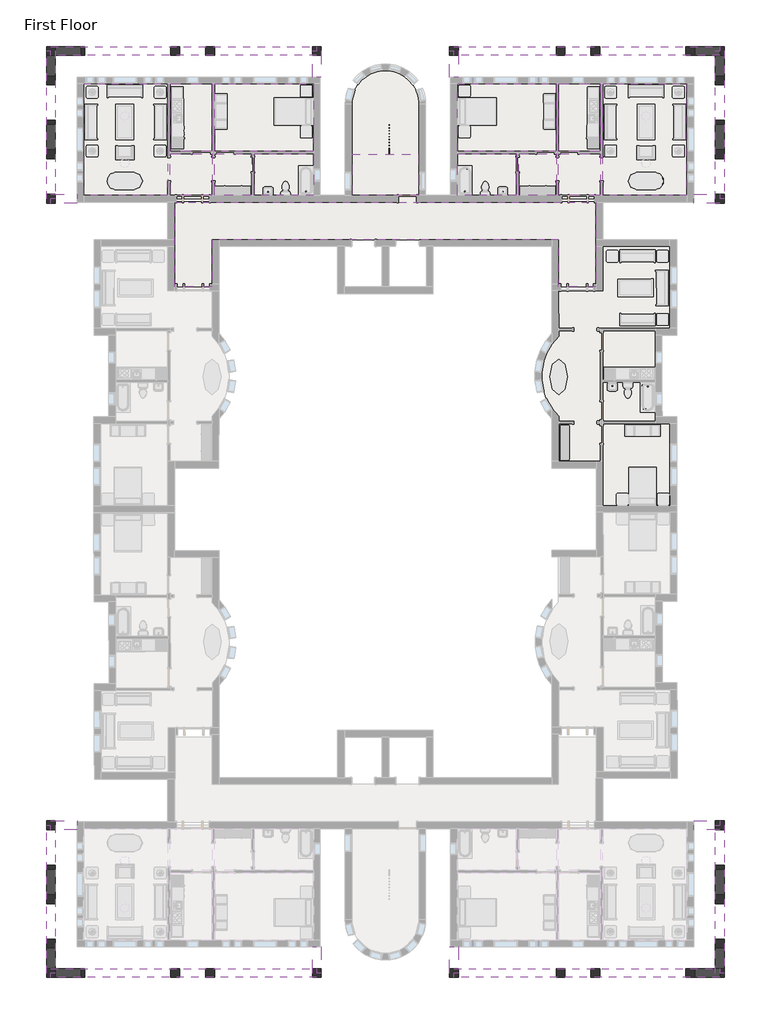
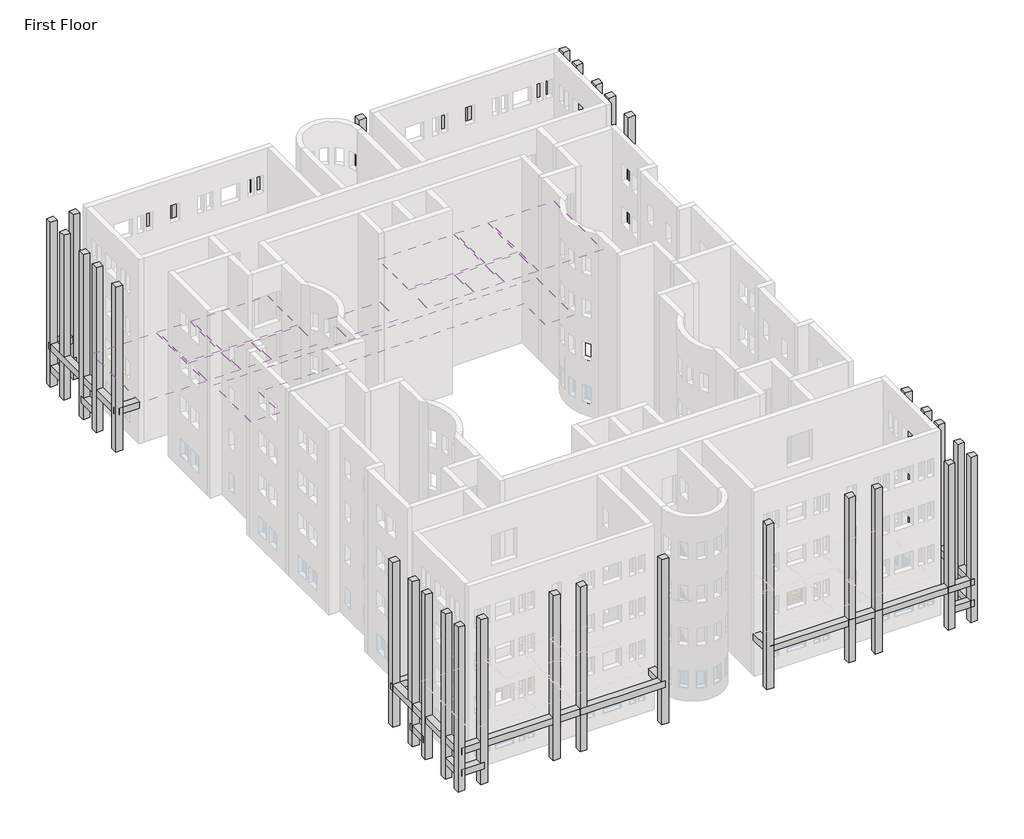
# One storey, part 17 of 21: 36 columns, 28 beams, 14 coverings, 4 slabs.
"""IFC4 building model written with IfcOpenShell, lengths in millimetres."""

from ifc_helpers import new_model, si_unit, point, frame, frame_2d, origin, place, context, project, spatial, polyline, circle_curve, trimmed, segment, composite_curve, outline, extrude, transform, mapped, element, save
from components import concrete_square_column_18_x_18_3c38657b, concrete_square_column_18_x_18_478389e8

model = new_model("IFC4")

# Units and contexts
model_context = context("Model", 3, world=origin())
ifc_project = project(units=[si_unit("LENGTHUNIT", "METRE", prefix="MILLI")], contexts=[model_context])

# Site, building, storey
site = spatial("IfcSite", under=ifc_project)
building = spatial("IfcBuilding", under=site)
storey = spatial("IfcBuildingStorey", under=building, Name="First Floor", Elevation=0.0)

# Beams
placement = place(None, origin())
element("IfcBeam", 1, ObjectType="Concrete-Rectangular Beam : 18 x 18", at=placement, inside=storey, context=model_context, shape_type="SweptSolid", body=[
    extrude(outline(polyline([(2322.5410437, -35349.9683133), (2322.5410437, -35807.1683133), (-11393.4589563, -35807.1683133), (-11393.4589563, -35349.9683133), (2322.5410437, -35349.9683133)])), frame((0.0, 0.0, 2590.8), z_axis=(0.0, 0.0, 1.0), x_axis=(1.0, 0.0, 0.0)), (0.0, 0.0, 1.0), 457.2),
])
element("IfcBeam", 2, ObjectType="Concrete-Rectangular Beam : 18 x 18", at=placement, inside=storey, context=model_context, shape_type="SweptSolid", body=[
    extrude(outline(polyline([(2093.9410437, -27958.5683133), (2551.1410437, -27958.5683133), (2551.1410437, -35578.5683133), (2093.9410437, -35578.5683133), (2093.9410437, -27958.5683133)])), frame((0.0, 0.0, 2590.8), z_axis=(0.0, 0.0, 1.0), x_axis=(1.0, 0.0, 0.0)), (0.0, 0.0, 1.0), 457.2),
])
element("IfcBeam", 3, ObjectType="Concrete-Rectangular Beam : 18 x 18", at=placement, inside=storey, context=model_context, shape_type="SweptSolid", body=[
    extrude(outline(polyline([(-11622.0589563, -34232.3683133), (-11164.8589563, -34232.3683133), (-11164.8589563, -35578.5683133), (-11622.0589563, -35578.5683133), (-11622.0589563, -34232.3683133)])), frame((0.0, 0.0, 2590.8), z_axis=(0.0, 0.0, 1.0), x_axis=(1.0, 0.0, 0.0)), (0.0, 0.0, 1.0), 457.2),
])
element("IfcBeam", 4, ObjectType="Concrete-Rectangular Beam : 18 x 18", at=placement, inside=storey, context=model_context, shape_type="SweptSolid", body=[
    extrude(outline(polyline([(976.3410437, -28187.1683133), (976.3410437, -27729.9683133), (2322.5410437, -27729.9683133), (2322.5410437, -28187.1683133), (976.3410437, -28187.1683133)])), frame((0.0, 0.0, 2590.8), z_axis=(0.0, 0.0, 1.0), x_axis=(1.0, 0.0, 0.0)), (0.0, 0.0, 1.0), 457.2),
])
element("IfcBeam", 5, ObjectType="Concrete-Rectangular Beam : 18 x 18", at=placement, inside=storey, context=model_context, shape_type="SweptSolid", body=[
    extrude(outline(polyline([(798.5410437, -35807.1683133), (798.5410437, -35349.9683133), (2322.5410437, -35349.9683133), (2322.5410437, -35807.1683133), (798.5410437, -35807.1683133)])), frame((0.0, 0.0, 1066.8), z_axis=(0.0, 0.0, 1.0), x_axis=(1.0, 0.0, 0.0)), (0.0, 0.0, 1.0), 457.2),
])
element("IfcBeam", 6, ObjectType="Concrete-Rectangular Beam : 18 x 18", at=placement, inside=storey, context=model_context, shape_type="SweptSolid", body=[
    extrude(outline(polyline([(2093.9410437, -34054.5683133), (2551.1410437, -34054.5683133), (2551.1410437, -35578.5683133), (2093.9410437, -35578.5683133), (2093.9410437, -34054.5683133)])), frame((0.0, 0.0, 1066.8), z_axis=(0.0, 0.0, 1.0), x_axis=(1.0, 0.0, 0.0)), (0.0, 0.0, 1.0), 457.2),
])
element("IfcBeam", 7, ObjectType="Concrete-Rectangular Beam : 18 x 18", at=placement, inside=storey, context=model_context, shape_type="SweptSolid", body=[
    extrude(outline(polyline([(2093.9410437, -30244.5683133), (2551.1410437, -30244.5683133), (2551.1410437, -31768.5683133), (2093.9410437, -31768.5683133), (2093.9410437, -30244.5683133)])), frame((0.0, 0.0, 1066.8), z_axis=(0.0, 0.0, 1.0), x_axis=(1.0, 0.0, 0.0)), (0.0, 0.0, 1.0), 457.2),
])
element("IfcBeam", 8, ObjectType="Concrete-Rectangular Beam : 18 x 18", at=placement, inside=storey, context=model_context, shape_type="SweptSolid", body=[
    extrude(outline(polyline([(-32192.8839563, -35807.1683133), (-32192.8839563, -35349.9683133), (-18476.8839563, -35349.9683133), (-18476.8839563, -35807.1683133), (-32192.8839563, -35807.1683133)])), frame((0.0, 0.0, 2590.8), z_axis=(0.0, 0.0, 1.0), x_axis=(1.0, 0.0, 0.0)), (0.0, 0.0, 1.0), 457.2),
])
element("IfcBeam", 9, ObjectType="Concrete-Rectangular Beam : 18 x 18", at=placement, inside=storey, context=model_context, shape_type="SweptSolid", body=[
    extrude(outline(polyline([(-32421.4839563, -27958.5683133), (-31964.2839563, -27958.5683133), (-31964.2839563, -35578.5683133), (-32421.4839563, -35578.5683133), (-32421.4839563, -27958.5683133)])), frame((0.0, 0.0, 2590.8), z_axis=(0.0, 0.0, 1.0), x_axis=(1.0, 0.0, 0.0)), (0.0, 0.0, 1.0), 457.2),
])
element("IfcBeam", 10, ObjectType="Concrete-Rectangular Beam : 18 x 18", at=placement, inside=storey, context=model_context, shape_type="SweptSolid", body=[
    extrude(outline(polyline([(-18705.4839563, -34232.3683133), (-18248.2839563, -34232.3683133), (-18248.2839563, -35578.5683133), (-18705.4839563, -35578.5683133), (-18705.4839563, -34232.3683133)])), frame((0.0, 0.0, 2590.8), z_axis=(0.0, 0.0, 1.0), x_axis=(1.0, 0.0, 0.0)), (0.0, 0.0, 1.0), 457.2),
])
element("IfcBeam", 11, ObjectType="Concrete-Rectangular Beam : 18 x 18", at=placement, inside=storey, context=model_context, shape_type="SweptSolid", body=[
    extrude(outline(polyline([(-30846.6839563, -27729.9683133), (-30846.6839563, -28187.1683133), (-32192.8839563, -28187.1683133), (-32192.8839563, -27729.9683133), (-30846.6839563, -27729.9683133)])), frame((0.0, 0.0, 2590.8), z_axis=(0.0, 0.0, 1.0), x_axis=(1.0, 0.0, 0.0)), (0.0, 0.0, 1.0), 457.2),
])
element("IfcBeam", 12, ObjectType="Concrete-Rectangular Beam : 18 x 18", at=placement, inside=storey, context=model_context, shape_type="SweptSolid", body=[
    extrude(outline(polyline([(-30668.8839563, -35349.9683133), (-30668.8839563, -35807.1683133), (-32192.8839563, -35807.1683133), (-32192.8839563, -35349.9683133), (-30668.8839563, -35349.9683133)])), frame((0.0, 0.0, 1066.8), z_axis=(0.0, 0.0, 1.0), x_axis=(1.0, 0.0, 0.0)), (0.0, 0.0, 1.0), 457.2),
])
element("IfcBeam", 13, ObjectType="Concrete-Rectangular Beam : 18 x 18", at=placement, inside=storey, context=model_context, shape_type="SweptSolid", body=[
    extrude(outline(polyline([(-32421.4839563, -34054.5683133), (-31964.2839563, -34054.5683133), (-31964.2839563, -35578.5683133), (-32421.4839563, -35578.5683133), (-32421.4839563, -34054.5683133)])), frame((0.0, 0.0, 1066.8), z_axis=(0.0, 0.0, 1.0), x_axis=(1.0, 0.0, 0.0)), (0.0, 0.0, 1.0), 457.2),
])
element("IfcBeam", 14, ObjectType="Concrete-Rectangular Beam : 18 x 18", at=placement, inside=storey, context=model_context, shape_type="SweptSolid", body=[
    extrude(outline(polyline([(-32421.4839563, -30244.5683133), (-31964.2839563, -30244.5683133), (-31964.2839563, -31768.5683133), (-32421.4839563, -31768.5683133), (-32421.4839563, -30244.5683133)])), frame((0.0, 0.0, 1066.8), z_axis=(0.0, 0.0, 1.0), x_axis=(1.0, 0.0, 0.0)), (0.0, 0.0, 1.0), 457.2),
])
element("IfcBeam", 15, ObjectType="Concrete-Rectangular Beam : 18 x 18", at=placement, inside=storey, context=model_context, shape_type="SweptSolid", body=[
    extrude(outline(polyline([(2322.5410437, 12198.8316867), (2322.5410437, 11741.6316867), (-11393.4589563, 11741.6316867), (-11393.4589563, 12198.8316867), (2322.5410437, 12198.8316867)])), frame((0.0, 0.0, 2590.8), z_axis=(0.0, 0.0, 1.0), x_axis=(1.0, 0.0, 0.0)), (0.0, 0.0, 1.0), 457.2),
])
element("IfcBeam", 16, ObjectType="Concrete-Rectangular Beam : 18 x 18", at=placement, inside=storey, context=model_context, shape_type="SweptSolid", body=[
    extrude(outline(polyline([(2551.1410437, 4350.2316867), (2093.9410437, 4350.2316867), (2093.9410437, 11970.2316867), (2551.1410437, 11970.2316867), (2551.1410437, 4350.2316867)])), frame((0.0, 0.0, 2590.8), z_axis=(0.0, 0.0, 1.0), x_axis=(1.0, 0.0, 0.0)), (0.0, 0.0, 1.0), 457.2),
])
element("IfcBeam", 17, ObjectType="Concrete-Rectangular Beam : 18 x 18", at=placement, inside=storey, context=model_context, shape_type="SweptSolid", body=[
    extrude(outline(polyline([(-11164.8589563, 10624.0316867), (-11622.0589563, 10624.0316867), (-11622.0589563, 11970.2316867), (-11164.8589563, 11970.2316867), (-11164.8589563, 10624.0316867)])), frame((0.0, 0.0, 2590.8), z_axis=(0.0, 0.0, 1.0), x_axis=(1.0, 0.0, 0.0)), (0.0, 0.0, 1.0), 457.2),
])
element("IfcBeam", 18, ObjectType="Concrete-Rectangular Beam : 18 x 18", at=placement, inside=storey, context=model_context, shape_type="SweptSolid", body=[
    extrude(outline(polyline([(976.3410437, 4121.6316867), (976.3410437, 4578.8316867), (2322.5410437, 4578.8316867), (2322.5410437, 4121.6316867), (976.3410437, 4121.6316867)])), frame((0.0, 0.0, 2590.8), z_axis=(0.0, 0.0, 1.0), x_axis=(1.0, 0.0, 0.0)), (0.0, 0.0, 1.0), 457.2),
])
element("IfcBeam", 19, ObjectType="Concrete-Rectangular Beam : 18 x 18", at=placement, inside=storey, context=model_context, shape_type="SweptSolid", body=[
    extrude(outline(polyline([(798.5410437, 11741.6316867), (798.5410437, 12198.8316867), (2322.5410437, 12198.8316867), (2322.5410437, 11741.6316867), (798.5410437, 11741.6316867)])), frame((0.0, 0.0, 1066.8), z_axis=(0.0, 0.0, 1.0), x_axis=(1.0, 0.0, 0.0)), (0.0, 0.0, 1.0), 457.2),
])
element("IfcBeam", 20, ObjectType="Concrete-Rectangular Beam : 18 x 18", at=placement, inside=storey, context=model_context, shape_type="SweptSolid", body=[
    extrude(outline(polyline([(2551.1410437, 10446.2316867), (2093.9410437, 10446.2316867), (2093.9410437, 11970.2316867), (2551.1410437, 11970.2316867), (2551.1410437, 10446.2316867)])), frame((0.0, 0.0, 1066.8), z_axis=(0.0, 0.0, 1.0), x_axis=(1.0, 0.0, 0.0)), (0.0, 0.0, 1.0), 457.2),
])
element("IfcBeam", 21, ObjectType="Concrete-Rectangular Beam : 18 x 18", at=placement, inside=storey, context=model_context, shape_type="SweptSolid", body=[
    extrude(outline(polyline([(2551.1410437, 6636.2316867), (2093.9410437, 6636.2316867), (2093.9410437, 8160.2316867), (2551.1410437, 8160.2316867), (2551.1410437, 6636.2316867)])), frame((0.0, 0.0, 1066.8), z_axis=(0.0, 0.0, 1.0), x_axis=(1.0, 0.0, 0.0)), (0.0, 0.0, 1.0), 457.2),
])
element("IfcBeam", 22, ObjectType="Concrete-Rectangular Beam : 18 x 18", at=placement, inside=storey, context=model_context, shape_type="SweptSolid", body=[
    extrude(outline(polyline([(-32192.8839563, 11741.6316867), (-32192.8839563, 12198.8316867), (-18476.8839563, 12198.8316867), (-18476.8839563, 11741.6316867), (-32192.8839563, 11741.6316867)])), frame((0.0, 0.0, 2590.8), z_axis=(0.0, 0.0, 1.0), x_axis=(1.0, 0.0, 0.0)), (0.0, 0.0, 1.0), 457.2),
])
element("IfcBeam", 23, ObjectType="Concrete-Rectangular Beam : 18 x 18", at=placement, inside=storey, context=model_context, shape_type="SweptSolid", body=[
    extrude(outline(polyline([(-31964.2839563, 4350.2316867), (-32421.4839563, 4350.2316867), (-32421.4839563, 11970.2316867), (-31964.2839563, 11970.2316867), (-31964.2839563, 4350.2316867)])), frame((0.0, 0.0, 2590.8), z_axis=(0.0, 0.0, 1.0), x_axis=(1.0, 0.0, 0.0)), (0.0, 0.0, 1.0), 457.2),
])
element("IfcBeam", 24, ObjectType="Concrete-Rectangular Beam : 18 x 18", at=placement, inside=storey, context=model_context, shape_type="SweptSolid", body=[
    extrude(outline(polyline([(-18248.2839563, 10624.0316867), (-18705.4839563, 10624.0316867), (-18705.4839563, 11970.2316867), (-18248.2839563, 11970.2316867), (-18248.2839563, 10624.0316867)])), frame((0.0, 0.0, 2590.8), z_axis=(0.0, 0.0, 1.0), x_axis=(1.0, 0.0, 0.0)), (0.0, 0.0, 1.0), 457.2),
])
element("IfcBeam", 25, ObjectType="Concrete-Rectangular Beam : 18 x 18", at=placement, inside=storey, context=model_context, shape_type="SweptSolid", body=[
    extrude(outline(polyline([(-30846.6839563, 4578.8316867), (-30846.6839563, 4121.6316867), (-32192.8839563, 4121.6316867), (-32192.8839563, 4578.8316867), (-30846.6839563, 4578.8316867)])), frame((0.0, 0.0, 2590.8), z_axis=(0.0, 0.0, 1.0), x_axis=(1.0, 0.0, 0.0)), (0.0, 0.0, 1.0), 457.2),
])
element("IfcBeam", 26, ObjectType="Concrete-Rectangular Beam : 18 x 18", at=placement, inside=storey, context=model_context, shape_type="SweptSolid", body=[
    extrude(outline(polyline([(-30668.8839563, 12198.8316867), (-30668.8839563, 11741.6316867), (-32192.8839563, 11741.6316867), (-32192.8839563, 12198.8316867), (-30668.8839563, 12198.8316867)])), frame((0.0, 0.0, 1066.8), z_axis=(0.0, 0.0, 1.0), x_axis=(1.0, 0.0, 0.0)), (0.0, 0.0, 1.0), 457.2),
])
element("IfcBeam", 27, ObjectType="Concrete-Rectangular Beam : 18 x 18", at=placement, inside=storey, context=model_context, shape_type="SweptSolid", body=[
    extrude(outline(polyline([(-31964.2839563, 10446.2316867), (-32421.4839563, 10446.2316867), (-32421.4839563, 11970.2316867), (-31964.2839563, 11970.2316867), (-31964.2839563, 10446.2316867)])), frame((0.0, 0.0, 1066.8), z_axis=(0.0, 0.0, 1.0), x_axis=(1.0, 0.0, 0.0)), (0.0, 0.0, 1.0), 457.2),
])
element("IfcBeam", 28, ObjectType="Concrete-Rectangular Beam : 18 x 18", at=placement, inside=storey, context=model_context, shape_type="SweptSolid", body=[
    extrude(outline(polyline([(-31964.2839563, 6636.2316867), (-32421.4839563, 6636.2316867), (-32421.4839563, 8160.2316867), (-31964.2839563, 8160.2316867), (-31964.2839563, 6636.2316867)])), frame((0.0, 0.0, 1066.8), z_axis=(0.0, 0.0, 1.0), x_axis=(1.0, 0.0, 0.0)), (0.0, 0.0, 1.0), 457.2),
])

# Columns
concrete_square_column_18_x_18_shape = concrete_square_column_18_x_18_3c38657b(model_context)
element("IfcColumn", 29, ObjectType="Concrete-Square-Column : 18 x 18", at=placement, inside=storey, context=model_context, shape_type="MappedRepresentation", body=[
    mapped(concrete_square_column_18_x_18_shape, transform((2322.5410437, -34054.5683133, 0.0), x_axis=(0.0, -1.0, 0.0), y_axis=(1.0, 0.0, 0.0), z_axis=(0.0, 0.0, 1.0))),
])
element("IfcColumn", 30, ObjectType="Concrete-Square-Column : 18 x 18", at=placement, inside=storey, context=model_context, shape_type="MappedRepresentation", body=[
    mapped(concrete_square_column_18_x_18_shape, transform((2322.5410437, -27958.5683133, 0.0), x_axis=(0.0, -1.0, 0.0), y_axis=(1.0, 0.0, 0.0), z_axis=(0.0, 0.0, 1.0))),
])
element("IfcColumn", 31, ObjectType="Concrete-Square-Column : 18 x 18", at=placement, inside=storey, context=model_context, shape_type="MappedRepresentation", body=[
    mapped(concrete_square_column_18_x_18_shape, transform((-5894.3589563, -35578.5683133, 0.0), x_axis=(-1.0, 0.0, 0.0), y_axis=(0.0, -1.0, 0.0), z_axis=(0.0, 0.0, 1.0))),
])
element("IfcColumn", 32, ObjectType="Concrete-Square-Column : 18 x 18", at=placement, inside=storey, context=model_context, shape_type="MappedRepresentation", body=[
    mapped(concrete_square_column_18_x_18_shape, transform((2322.5410437, -30244.5683133, 0.0), x_axis=(0.0, -1.0, 0.0), y_axis=(1.0, 0.0, 0.0), z_axis=(0.0, 0.0, 1.0))),
])
element("IfcColumn", 33, ObjectType="Concrete-Square-Column : 18 x 18", at=placement, inside=storey, context=model_context, shape_type="MappedRepresentation", body=[
    mapped(concrete_square_column_18_x_18_shape, transform((-30668.8839563, -35578.5683133, 0.0), x_axis=(-1.0, 0.0, 0.0), y_axis=(0.0, -1.0, 0.0), z_axis=(0.0, 0.0, 1.0))),
])
element("IfcColumn", 34, ObjectType="Concrete-Square-Column : 18 x 18", at=placement, inside=storey, context=model_context, shape_type="MappedRepresentation", body=[
    mapped(concrete_square_column_18_x_18_shape, transform((-18476.8839563, -35578.5683133, 0.0), x_axis=(-1.0, 0.0, 0.0), y_axis=(0.0, -1.0, 0.0), z_axis=(0.0, 0.0, 1.0))),
])
element("IfcColumn", 35, ObjectType="Concrete-Square-Column : 18 x 18", at=placement, inside=storey, context=model_context, shape_type="MappedRepresentation", body=[
    mapped(concrete_square_column_18_x_18_shape, transform((-32192.8839563, -35578.5683133, 0.0), x_axis=(-1.0, 0.0, 0.0), y_axis=(0.0, -1.0, 0.0), z_axis=(0.0, 0.0, 1.0))),
])
element("IfcColumn", 36, ObjectType="Concrete-Square-Column : 18 x 18", at=placement, inside=storey, context=model_context, shape_type="MappedRepresentation", body=[
    mapped(concrete_square_column_18_x_18_shape, transform((-25779.3839563, -35578.5683133, 0.0), x_axis=(-1.0, 0.0, 0.0), y_axis=(0.0, -1.0, 0.0), z_axis=(0.0, 0.0, 1.0))),
])
element("IfcColumn", 37, ObjectType="Concrete-Square-Column : 18 x 18", at=placement, inside=storey, context=model_context, shape_type="MappedRepresentation", body=[
    mapped(concrete_square_column_18_x_18_shape, transform((-32192.8839563, -31768.5683133, 0.0), x_axis=(-1.0, 0.0, 0.0), y_axis=(0.0, -1.0, 0.0), z_axis=(0.0, 0.0, 1.0))),
])
element("IfcColumn", 38, ObjectType="Concrete-Square-Column : 18 x 18", at=placement, inside=storey, context=model_context, shape_type="MappedRepresentation", body=[
    mapped(concrete_square_column_18_x_18_shape, transform((798.5410437, 11970.2316867, 0.0), x_axis=(1.0, 0.0, 0.0), y_axis=(0.0, 1.0, 0.0), z_axis=(0.0, 0.0, 1.0))),
])
element("IfcColumn", 39, ObjectType="Concrete-Square-Column : 18 x 18", at=placement, inside=storey, context=model_context, shape_type="MappedRepresentation", body=[
    mapped(concrete_square_column_18_x_18_shape, transform((-11393.4589563, 11970.2316867, 0.0), x_axis=(1.0, 0.0, 0.0), y_axis=(0.0, 1.0, 0.0), z_axis=(0.0, 0.0, 1.0))),
])
element("IfcColumn", 40, ObjectType="Concrete-Square-Column : 18 x 18", at=placement, inside=storey, context=model_context, shape_type="MappedRepresentation", body=[
    mapped(concrete_square_column_18_x_18_shape, transform((2322.5410437, 11970.2316867, 0.0), x_axis=(1.0, 0.0, 0.0), y_axis=(0.0, 1.0, 0.0), z_axis=(0.0, 0.0, 1.0))),
])
element("IfcColumn", 41, ObjectType="Concrete-Square-Column : 18 x 18", at=placement, inside=storey, context=model_context, shape_type="MappedRepresentation", body=[
    mapped(concrete_square_column_18_x_18_shape, transform((-4090.9589563, 11970.2316867, 0.0), x_axis=(1.0, 0.0, 0.0), y_axis=(0.0, 1.0, 0.0), z_axis=(0.0, 0.0, 1.0))),
])
element("IfcColumn", 42, ObjectType="Concrete-Square-Column : 18 x 18", at=placement, inside=storey, context=model_context, shape_type="MappedRepresentation", body=[
    mapped(concrete_square_column_18_x_18_shape, transform((2322.5410437, 8160.2316867, 0.0), x_axis=(1.0, 0.0, 0.0), y_axis=(0.0, 1.0, 0.0), z_axis=(0.0, 0.0, 1.0))),
])
element("IfcColumn", 43, ObjectType="Concrete-Square-Column : 18 x 18", at=placement, inside=storey, context=model_context, shape_type="MappedRepresentation", body=[
    mapped(concrete_square_column_18_x_18_shape, transform((-32192.8839563, 10446.2316867, 0.0), x_axis=(0.0, 1.0, 0.0), y_axis=(-1.0, 0.0, 0.0), z_axis=(0.0, 0.0, 1.0))),
])
element("IfcColumn", 44, ObjectType="Concrete-Square-Column : 18 x 18", at=placement, inside=storey, context=model_context, shape_type="MappedRepresentation", body=[
    mapped(concrete_square_column_18_x_18_shape, transform((-32192.8839563, 4350.2316867, 0.0), x_axis=(0.0, 1.0, 0.0), y_axis=(-1.0, 0.0, 0.0), z_axis=(0.0, 0.0, 1.0))),
])
element("IfcColumn", 45, ObjectType="Concrete-Square-Column : 18 x 18", at=placement, inside=storey, context=model_context, shape_type="MappedRepresentation", body=[
    mapped(concrete_square_column_18_x_18_shape, transform((-23975.9839563, 11970.2316867, 0.0), x_axis=(1.0, 0.0, 0.0), y_axis=(0.0, 1.0, 0.0), z_axis=(0.0, 0.0, 1.0))),
])
element("IfcColumn", 46, ObjectType="Concrete-Square-Column : 18 x 18", at=placement, inside=storey, context=model_context, shape_type="MappedRepresentation", body=[
    mapped(concrete_square_column_18_x_18_shape, transform((-32192.8839563, 6636.2316867, 0.0), x_axis=(0.0, 1.0, 0.0), y_axis=(-1.0, 0.0, 0.0), z_axis=(0.0, 0.0, 1.0))),
])
concrete_square_column_18_x_18_2_shape = concrete_square_column_18_x_18_478389e8(model_context)
element("IfcColumn", 47, ObjectType="Concrete-Square-Column : 18 x 18", at=placement, inside=storey, context=model_context, shape_type="MappedRepresentation", body=[
    mapped(concrete_square_column_18_x_18_2_shape, transform((798.5410437, -35578.5683133, 0.0), x_axis=(1.0, 0.0, 0.0), y_axis=(0.0, 1.0, 0.0), z_axis=(0.0, 0.0, 1.0))),
])
element("IfcColumn", 48, ObjectType="Concrete-Square-Column : 18 x 18", at=placement, inside=storey, context=model_context, shape_type="MappedRepresentation", body=[
    mapped(concrete_square_column_18_x_18_2_shape, transform((-11393.4589563, -35578.5683133, 0.0), x_axis=(1.0, 0.0, 0.0), y_axis=(0.0, 1.0, 0.0), z_axis=(0.0, 0.0, 1.0))),
])
element("IfcColumn", 49, ObjectType="Concrete-Square-Column : 18 x 18", at=placement, inside=storey, context=model_context, shape_type="MappedRepresentation", body=[
    mapped(concrete_square_column_18_x_18_2_shape, transform((2322.5410437, -35578.5683133, 0.0), x_axis=(1.0, 0.0, 0.0), y_axis=(0.0, 1.0, 0.0), z_axis=(0.0, 0.0, 1.0))),
])
element("IfcColumn", 50, ObjectType="Concrete-Square-Column : 18 x 18", at=placement, inside=storey, context=model_context, shape_type="MappedRepresentation", body=[
    mapped(concrete_square_column_18_x_18_2_shape, transform((-4090.9589563, -35578.5683133, 0.0), x_axis=(1.0, 0.0, 0.0), y_axis=(0.0, 1.0, 0.0), z_axis=(0.0, 0.0, 1.0))),
])
element("IfcColumn", 51, ObjectType="Concrete-Square-Column : 18 x 18", at=placement, inside=storey, context=model_context, shape_type="MappedRepresentation", body=[
    mapped(concrete_square_column_18_x_18_2_shape, transform((2322.5410437, -31768.5683133, 0.0), x_axis=(1.0, 0.0, 0.0), y_axis=(0.0, 1.0, 0.0), z_axis=(0.0, 0.0, 1.0))),
])
element("IfcColumn", 52, ObjectType="Concrete-Square-Column : 18 x 18", at=placement, inside=storey, context=model_context, shape_type="MappedRepresentation", body=[
    mapped(concrete_square_column_18_x_18_2_shape, transform((-32192.8839563, -34054.5683133, 0.0), x_axis=(0.0, -1.0, 0.0), y_axis=(1.0, 0.0, 0.0), z_axis=(0.0, 0.0, 1.0))),
])
element("IfcColumn", 53, ObjectType="Concrete-Square-Column : 18 x 18", at=placement, inside=storey, context=model_context, shape_type="MappedRepresentation", body=[
    mapped(concrete_square_column_18_x_18_2_shape, transform((-32192.8839563, -27958.5683133, 0.0), x_axis=(0.0, -1.0, 0.0), y_axis=(1.0, 0.0, 0.0), z_axis=(0.0, 0.0, 1.0))),
])
element("IfcColumn", 54, ObjectType="Concrete-Square-Column : 18 x 18", at=placement, inside=storey, context=model_context, shape_type="MappedRepresentation", body=[
    mapped(concrete_square_column_18_x_18_2_shape, transform((-23975.9839563, -35578.5683133, 0.0), x_axis=(1.0, 0.0, 0.0), y_axis=(0.0, 1.0, 0.0), z_axis=(0.0, 0.0, 1.0))),
])
element("IfcColumn", 55, ObjectType="Concrete-Square-Column : 18 x 18", at=placement, inside=storey, context=model_context, shape_type="MappedRepresentation", body=[
    mapped(concrete_square_column_18_x_18_2_shape, transform((-32192.8839563, -30244.5683133, 0.0), x_axis=(0.0, -1.0, 0.0), y_axis=(1.0, 0.0, 0.0), z_axis=(0.0, 0.0, 1.0))),
])
element("IfcColumn", 56, ObjectType="Concrete-Square-Column : 18 x 18", at=placement, inside=storey, context=model_context, shape_type="MappedRepresentation", body=[
    mapped(concrete_square_column_18_x_18_2_shape, transform((2322.5410437, 10446.2316867, 0.0), x_axis=(0.0, 1.0, 0.0), y_axis=(-1.0, 0.0, 0.0), z_axis=(0.0, 0.0, 1.0))),
])
element("IfcColumn", 57, ObjectType="Concrete-Square-Column : 18 x 18", at=placement, inside=storey, context=model_context, shape_type="MappedRepresentation", body=[
    mapped(concrete_square_column_18_x_18_2_shape, transform((2322.5410437, 4350.2316867, 0.0), x_axis=(0.0, 1.0, 0.0), y_axis=(-1.0, 0.0, 0.0), z_axis=(0.0, 0.0, 1.0))),
])
element("IfcColumn", 58, ObjectType="Concrete-Square-Column : 18 x 18", at=placement, inside=storey, context=model_context, shape_type="MappedRepresentation", body=[
    mapped(concrete_square_column_18_x_18_2_shape, transform((-5894.3589563, 11970.2316867, 0.0), x_axis=(-1.0, 0.0, 0.0), y_axis=(0.0, -1.0, 0.0), z_axis=(0.0, 0.0, 1.0))),
])
element("IfcColumn", 59, ObjectType="Concrete-Square-Column : 18 x 18", at=placement, inside=storey, context=model_context, shape_type="MappedRepresentation", body=[
    mapped(concrete_square_column_18_x_18_2_shape, transform((2322.5410437, 6636.2316867, 0.0), x_axis=(0.0, 1.0, 0.0), y_axis=(-1.0, 0.0, 0.0), z_axis=(0.0, 0.0, 1.0))),
])
element("IfcColumn", 60, ObjectType="Concrete-Square-Column : 18 x 18", at=placement, inside=storey, context=model_context, shape_type="MappedRepresentation", body=[
    mapped(concrete_square_column_18_x_18_2_shape, transform((-30668.8839563, 11970.2316867, 0.0), x_axis=(-1.0, 0.0, 0.0), y_axis=(0.0, -1.0, 0.0), z_axis=(0.0, 0.0, 1.0))),
])
element("IfcColumn", 61, ObjectType="Concrete-Square-Column : 18 x 18", at=placement, inside=storey, context=model_context, shape_type="MappedRepresentation", body=[
    mapped(concrete_square_column_18_x_18_2_shape, transform((-18476.8839563, 11970.2316867, 0.0), x_axis=(-1.0, 0.0, 0.0), y_axis=(0.0, -1.0, 0.0), z_axis=(0.0, 0.0, 1.0))),
])
element("IfcColumn", 62, ObjectType="Concrete-Square-Column : 18 x 18", at=placement, inside=storey, context=model_context, shape_type="MappedRepresentation", body=[
    mapped(concrete_square_column_18_x_18_2_shape, transform((-32192.8839563, 11970.2316867, 0.0), x_axis=(-1.0, 0.0, 0.0), y_axis=(0.0, -1.0, 0.0), z_axis=(0.0, 0.0, 1.0))),
])
element("IfcColumn", 63, ObjectType="Concrete-Square-Column : 18 x 18", at=placement, inside=storey, context=model_context, shape_type="MappedRepresentation", body=[
    mapped(concrete_square_column_18_x_18_2_shape, transform((-25779.3839563, 11970.2316867, 0.0), x_axis=(-1.0, 0.0, 0.0), y_axis=(0.0, -1.0, 0.0), z_axis=(0.0, 0.0, 1.0))),
])
element("IfcColumn", 64, ObjectType="Concrete-Square-Column : 18 x 18", at=placement, inside=storey, context=model_context, shape_type="MappedRepresentation", body=[
    mapped(concrete_square_column_18_x_18_2_shape, transform((-32192.8839563, 8160.2316867, 0.0), x_axis=(-1.0, 0.0, 0.0), y_axis=(0.0, -1.0, 0.0), z_axis=(0.0, 0.0, 1.0))),
])

# Coverings
element("IfcCovering", 65, ObjectType="GWB on Mtl. Stud", at=placement, inside=storey, context=model_context, shape_type="SweptSolid", body=[
    extrude(outline(polyline([(-11217.2464563, 10270.0191867), (-6122.9589563, 10270.0191867), (-6122.9589563, 6787.0441867), (-11217.2464563, 6787.0441867), (-11217.2464563, 10270.0191867)])), frame((0.0, 0.0, 2590.8), z_axis=(0.0, 0.0, 1.0), x_axis=(1.0, 0.0, 0.0)), (0.0, 0.0, 1.0), 107.95),
])
element("IfcCovering", 66, ObjectType="GWB on Mtl. Stud", at=placement, inside=storey, context=model_context, shape_type="SweptSolid", body=[
    extrude(outline(polyline([(-5995.9589563, 6787.0441867), (-5995.9589563, 10270.0191867), (-3836.9589563, 10270.0191867), (-3836.9589563, 6787.0441867), (-5995.9589563, 6787.0441867)])), frame((0.0, 0.0, 2590.8), z_axis=(0.0, 0.0, 1.0), x_axis=(1.0, 0.0, 0.0)), (0.0, 0.0, 1.0), 107.95),
])
element("IfcCovering", 67, ObjectType="GWB on Mtl. Stud", at=placement, inside=storey, context=model_context, shape_type="SweptSolid", body=[
    extrude(outline(polyline([(-3709.9589563, 4526.4441867), (-3709.9589563, 10270.0191867), (622.3285437, 10270.0191867), (622.3285437, 4526.4441867), (-3709.9589563, 4526.4441867)])), frame((0.0, 0.0, 2590.8), z_axis=(0.0, 0.0, 1.0), x_axis=(1.0, 0.0, 0.0)), (0.0, 0.0, 1.0), 107.95),
])
element("IfcCovering", 68, ObjectType="GWB on Mtl. Stud", at=placement, inside=storey, context=model_context, shape_type="SweptSolid", body=[
    extrude(outline(polyline([(-3836.9589563, 4526.4441867), (-5995.9589563, 4526.4441867), (-5995.9589563, 6660.0441867), (-3836.9589563, 6660.0441867), (-3836.9589563, 4526.4441867)])), frame((0.0, 0.0, 2590.8), z_axis=(0.0, 0.0, 1.0), x_axis=(1.0, 0.0, 0.0)), (0.0, 0.0, 1.0), 107.95),
])
element("IfcCovering", 69, ObjectType="GWB on Mtl. Stud", at=placement, inside=storey, context=model_context, shape_type="SweptSolid", body=[
    extrude(outline(polyline([(-6122.9589563, 4526.4441867), (-8042.2464563, 4526.4441867), (-8042.2464563, 6660.0441867), (-6122.9589563, 6660.0441867), (-6122.9589563, 4526.4441867)])), frame((0.0, 0.0, 2590.8), z_axis=(0.0, 0.0, 1.0), x_axis=(1.0, 0.0, 0.0)), (0.0, 0.0, 1.0), 107.95),
])
element("IfcCovering", 70, ObjectType="GWB on Mtl. Stud", at=placement, inside=storey, context=model_context, shape_type="SweptSolid", body=[
    extrude(outline(polyline([(-8169.2464563, 6660.0441867), (-8169.2464563, 4526.4441867), (-11217.2464563, 4526.4441867), (-11217.2464563, 6660.0441867), (-8169.2464563, 6660.0441867)])), frame((0.0, 0.0, 2590.8), z_axis=(0.0, 0.0, 1.0), x_axis=(1.0, 0.0, 0.0)), (0.0, 0.0, 1.0), 107.95),
])
element("IfcCovering", 71, ObjectType="GWB on Mtl. Stud", at=placement, inside=storey, context=model_context, shape_type="SweptSolid", body=[
    extrude(outline(polyline([(-13206.3839563, 4526.4441867), (-16663.9589563, 4526.4441867), (-16663.9589563, 6636.2316867), (-13206.3839563, 6636.2316867), (-13206.3839563, 4526.4441867)])), frame((0.0, 0.0, 2438.4), z_axis=(0.0, 0.0, 1.0), x_axis=(1.0, 0.0, 0.0)), (0.0, 0.0, 1.0), 107.95),
])
element("IfcCovering", 72, ObjectType="GWB on Mtl. Stud", at=placement, inside=storey, context=model_context, shape_type="SweptSolid", body=[
    extrude(outline(polyline([(-5995.9589563, -197.9558133), (-5995.9589563, 2240.4441867), (-23874.3839563, 2240.4441867), (-23874.3839563, -197.9558133), (-25807.9589563, -197.9558133), (-25807.9589563, 4174.0191867), (-4062.3839563, 4174.0191867), (-4062.3839563, -197.9558133), (-5995.9589563, -197.9558133)])), frame((0.0, 0.0, 2438.4), z_axis=(0.0, 0.0, 1.0), x_axis=(1.0, 0.0, 0.0)), (0.0, 0.0, 1.0), 107.95),
])
element("IfcCovering", 73, ObjectType="GWB on Mtl. Stud", at=placement, inside=storey, context=model_context, shape_type="SweptSolid", body=[
    extrude(outline(polyline([(-18653.0964563, 10270.0191867), (-18653.0964563, 6787.0441867), (-23747.3839563, 6787.0441867), (-23747.3839563, 10270.0191867), (-18653.0964563, 10270.0191867)])), frame((0.0, 0.0, 2590.8), z_axis=(0.0, 0.0, 1.0), x_axis=(1.0, 0.0, 0.0)), (0.0, 0.0, 1.0), 107.95),
])
element("IfcCovering", 74, ObjectType="GWB on Mtl. Stud", at=placement, inside=storey, context=model_context, shape_type="SweptSolid", body=[
    extrude(outline(polyline([(-23874.3839563, 6787.0441867), (-26033.3839563, 6787.0441867), (-26033.3839563, 10270.0191867), (-23874.3839563, 10270.0191867), (-23874.3839563, 6787.0441867)])), frame((0.0, 0.0, 2590.8), z_axis=(0.0, 0.0, 1.0), x_axis=(1.0, 0.0, 0.0)), (0.0, 0.0, 1.0), 107.95),
])
element("IfcCovering", 75, ObjectType="GWB on Mtl. Stud", at=placement, inside=storey, context=model_context, shape_type="SweptSolid", body=[
    extrude(outline(polyline([(-26160.3839563, 4526.4441867), (-30492.6714563, 4526.4441867), (-30492.6714563, 10270.0191867), (-26160.3839563, 10270.0191867), (-26160.3839563, 4526.4441867)])), frame((0.0, 0.0, 2590.8), z_axis=(0.0, 0.0, 1.0), x_axis=(1.0, 0.0, 0.0)), (0.0, 0.0, 1.0), 107.95),
])
element("IfcCovering", 76, ObjectType="GWB on Mtl. Stud", at=placement, inside=storey, context=model_context, shape_type="SweptSolid", body=[
    extrude(outline(polyline([(-26033.3839563, 4526.4441867), (-26033.3839563, 6660.0441867), (-23874.3839563, 6660.0441867), (-23874.3839563, 4526.4441867), (-26033.3839563, 4526.4441867)])), frame((0.0, 0.0, 2590.8), z_axis=(0.0, 0.0, 1.0), x_axis=(1.0, 0.0, 0.0)), (0.0, 0.0, 1.0), 107.95),
])
element("IfcCovering", 77, ObjectType="GWB on Mtl. Stud", at=placement, inside=storey, context=model_context, shape_type="SweptSolid", body=[
    extrude(outline(polyline([(-23747.3839563, 4526.4441867), (-23747.3839563, 6660.0441867), (-21828.0964563, 6660.0441867), (-21828.0964563, 4526.4441867), (-23747.3839563, 4526.4441867)])), frame((0.0, 0.0, 2590.8), z_axis=(0.0, 0.0, 1.0), x_axis=(1.0, 0.0, 0.0)), (0.0, 0.0, 1.0), 107.95),
])
element("IfcCovering", 78, ObjectType="GWB on Mtl. Stud", at=placement, inside=storey, context=model_context, shape_type="SweptSolid", body=[
    extrude(outline(polyline([(-21701.0964563, 6660.0441867), (-18653.0964563, 6660.0441867), (-18653.0964563, 4526.4441867), (-21701.0964563, 4526.4441867), (-21701.0964563, 6660.0441867)])), frame((0.0, 0.0, 2590.8), z_axis=(0.0, 0.0, 1.0), x_axis=(1.0, 0.0, 0.0)), (0.0, 0.0, 1.0), 107.95),
])

# Slabs
element("IfcSlab", 79, ObjectType="LW Concrete on Metal Deck", at=placement, inside=storey, context=model_context, shape_type="SweptSolid", body=[
    extrude(outline(polyline([(787.4285437, 10435.1191867), (787.4285437, 4361.3441867), (-11382.3464563, 4361.3441867), (-11382.3464563, 10435.1191867), (787.4285437, 10435.1191867)])), frame((0.0, 0.0, -104.775), z_axis=(0.0, 0.0, 1.0), x_axis=(1.0, 0.0, 0.0)), (0.0, 0.0, 1.0), 104.775),
])
element("IfcSlab", 80, ObjectType="LW Concrete on Metal Deck", at=placement, inside=storey, context=model_context, shape_type="SweptSolid", body=[
    extrude(outline(composite_curve([segment(polyline([(-13193.6839563, 9227.0316867), (-13193.6839563, 4186.7191867), (-4062.3839563, 4186.7191867), (-4062.3839563, -197.9558133), (-6008.6589563, -197.9558133), (-6008.6589563, 2227.7441867), (-23861.6839563, 2227.7441867), (-23861.6839563, -197.9558133), (-25807.9589563, -197.9558133), (-25807.9589563, 4186.7191867), (-16676.6589563, 4186.7191867), (-16676.6589563, 9227.0316867)]), True, "CONTINUOUS"), segment(trimmed(circle_curve(frame_2d((-14935.1714563, 9227.0316867)), 1741.4875), [point((-16676.6589563, 9227.0316867))], [point((-13193.6839563, 9227.0316867))], False, "CARTESIAN"), True, "CONTINUOUS")], self_intersect=False)), frame((0.0, 0.0, -104.775), z_axis=(0.0, 0.0, 1.0), x_axis=(1.0, 0.0, 0.0)), (0.0, 0.0, 1.0), 104.775),
])
element("IfcSlab", 81, ObjectType="LW Concrete on Metal Deck", at=placement, inside=storey, context=model_context, shape_type="SweptSolid", body=[
    extrude(outline(polyline([(-30657.7714563, 10435.1191867), (-18487.9964563, 10435.1191867), (-18487.9964563, 4361.3441867), (-30657.7714563, 4361.3441867), (-30657.7714563, 10435.1191867)])), frame((0.0, 0.0, -104.775), z_axis=(0.0, 0.0, 1.0), x_axis=(1.0, 0.0, 0.0)), (0.0, 0.0, 1.0), 104.775),
])
element("IfcSlab", 82, ObjectType="LW Concrete on Metal Deck", at=placement, inside=storey, context=model_context, shape_type="SweptSolid", body=[
    extrude(outline(composite_curve([segment(polyline([(-234.2235426, -7241.4361258), (-231.0021377, -11486.4099034), (-3713.9761348, -11489.0530457), (-3715.7109228, -9203.0537039), (-6001.7102645, -9204.7884919), (-6003.5015967, -6844.2786734)]), True, "CONTINUOUS"), segment(trimmed(circle_curve(frame_2d((-3991.8614496, -4794.7744983)), 2871.7875), [point((-6003.5015967, -6844.2786734))], [point((-6006.6099133, -2748.3258491))], False, "CARTESIAN"), True, "CONTINUOUS"), segment(polyline([(-6006.6099133, -2748.3258491), (-6008.4012454, -387.8160307), (-3722.4019036, -386.0812427), (-3724.1366916, 1899.918099), (-241.1626945, 1902.5612413), (-237.9412896, -2342.4125364), (-999.9410702, -2342.9907991), (-996.2233232, -7242.0143884), (-234.2235426, -7241.4361258)]), True, "CONTINUOUS")], self_intersect=False)), frame((0.0, 0.0, -104.775), z_axis=(0.0, 0.0, 1.0), x_axis=(1.0, 0.0, 0.0)), (0.0, 0.0, 1.0), 104.775),
])

save(model, "model.ifc")
